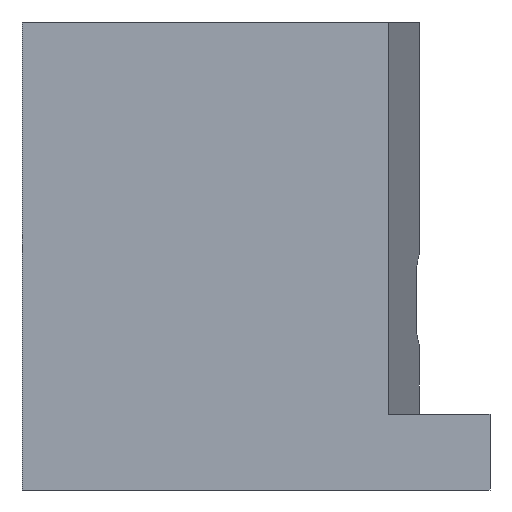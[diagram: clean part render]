
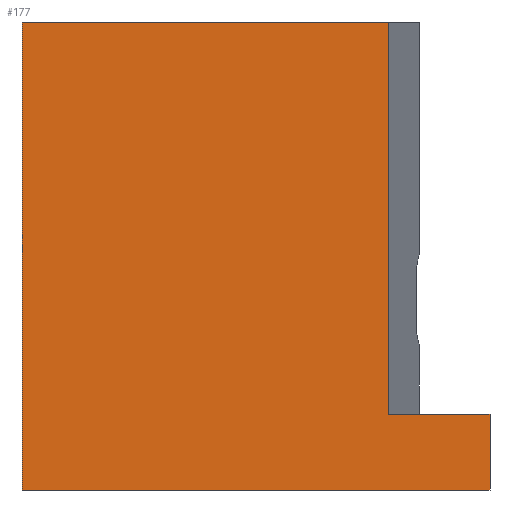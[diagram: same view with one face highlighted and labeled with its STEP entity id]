
A CAD part, left-side view. The second image highlights one B-rep face of the part: STEP entity #177.
In plain terms, the highlighted planar face has unit normal (-1, 0, 0).
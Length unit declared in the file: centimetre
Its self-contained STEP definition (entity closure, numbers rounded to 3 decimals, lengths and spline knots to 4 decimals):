
#2 = VERTEX_POINT ( 'NONE', #608 ) ;
#26 = CARTESIAN_POINT ( 'NONE',  ( 0., 0., 1000. ) ) ;
#37 = LINE ( 'NONE', #295, #71 ) ;
#71 = VECTOR ( 'NONE', #1024, 100. ) ;
#79 = VERTEX_POINT ( 'NONE', #999 ) ;
#93 = CARTESIAN_POINT ( 'NONE',  ( 0., 1000., 1000. ) ) ;
#101 = CARTESIAN_POINT ( 'NONE',  ( 0., 1000., 0. ) ) ;
#119 = ORIENTED_EDGE ( 'NONE', *, *, #828, .T. ) ;
#152 = VERTEX_POINT ( 'NONE', #252 ) ;
#155 = ORIENTED_EDGE ( 'NONE', *, *, #589, .T. ) ;
#177 = ADVANCED_FACE ( 'NONE', ( #724 ), #265, .F. ) ;
#181 = DIRECTION ( 'NONE',  ( 0., 0., -1. ) ) ;
#187 = ORIENTED_EDGE ( 'NONE', *, *, #268, .F. ) ;
#252 = CARTESIAN_POINT ( 'NONE',  ( 0., 1000., 0. ) ) ;
#265 = PLANE ( 'NONE',  #548 ) ;
#268 = EDGE_CURVE ( 'NONE', #1017, #79, #383, .T. ) ;
#290 = CARTESIAN_POINT ( 'NONE',  ( 0., 217.2266, 162.1047 ) ) ;
#295 = CARTESIAN_POINT ( 'NONE',  ( 0., 1000., 1000. ) ) ;
#337 = ORIENTED_EDGE ( 'NONE', *, *, #456, .F. ) ;
#383 = LINE ( 'NONE', #668, #506 ) ;
#385 = VECTOR ( 'NONE', #928, 100. ) ;
#456 = EDGE_CURVE ( 'NONE', #508, #2, #514, .T. ) ;
#466 = LINE ( 'NONE', #101, #699 ) ;
#478 = LINE ( 'NONE', #572, #640 ) ;
#490 = DIRECTION ( 'NONE',  ( 0., -1., 0. ) ) ;
#506 = VECTOR ( 'NONE', #490, 100. ) ;
#508 = VERTEX_POINT ( 'NONE', #93 ) ;
#514 = LINE ( 'NONE', #797, #867 ) ;
#519 = EDGE_LOOP ( 'NONE', ( #187, #1002, #337, #119, #155, #624 ) ) ;
#548 = AXIS2_PLACEMENT_3D ( 'NONE', #631, #994, #181 ) ;
#572 = CARTESIAN_POINT ( 'NONE',  ( 0., 217.2266, 162.1047 ) ) ;
#589 = EDGE_CURVE ( 'NONE', #152, #688, #466, .T. ) ;
#607 = EDGE_CURVE ( 'NONE', #1017, #2, #478, .T. ) ;
#608 = CARTESIAN_POINT ( 'NONE',  ( 0., 217.2266, 1000. ) ) ;
#624 = ORIENTED_EDGE ( 'NONE', *, *, #997, .F. ) ;
#631 = CARTESIAN_POINT ( 'NONE',  ( 0., 1000., 1000. ) ) ;
#640 = VECTOR ( 'NONE', #842, 100. ) ;
#662 = LINE ( 'NONE', #26, #385 ) ;
#664 = DIRECTION ( 'NONE',  ( 0., -1., 0. ) ) ;
#668 = CARTESIAN_POINT ( 'NONE',  ( 0., 217.2266, 162.1047 ) ) ;
#688 = VERTEX_POINT ( 'NONE', #778 ) ;
#699 = VECTOR ( 'NONE', #664, 100. ) ;
#724 = FACE_OUTER_BOUND ( 'NONE', #519, .T. ) ;
#778 = CARTESIAN_POINT ( 'NONE',  ( 0., 0., 0. ) ) ;
#797 = CARTESIAN_POINT ( 'NONE',  ( 0., 1000., 1000. ) ) ;
#828 = EDGE_CURVE ( 'NONE', #508, #152, #37, .T. ) ;
#842 = DIRECTION ( 'NONE',  ( 0., 0., 1. ) ) ;
#867 = VECTOR ( 'NONE', #1003, 100. ) ;
#928 = DIRECTION ( 'NONE',  ( 0., 0., -1. ) ) ;
#994 = DIRECTION ( 'NONE',  ( 1., 0., 0. ) ) ;
#997 = EDGE_CURVE ( 'NONE', #79, #688, #662, .T. ) ;
#999 = CARTESIAN_POINT ( 'NONE',  ( 0., 0., 162.1047 ) ) ;
#1002 = ORIENTED_EDGE ( 'NONE', *, *, #607, .T. ) ;
#1003 = DIRECTION ( 'NONE',  ( 0., -1., 0. ) ) ;
#1017 = VERTEX_POINT ( 'NONE', #290 ) ;
#1024 = DIRECTION ( 'NONE',  ( 0., 0., -1. ) ) ;
